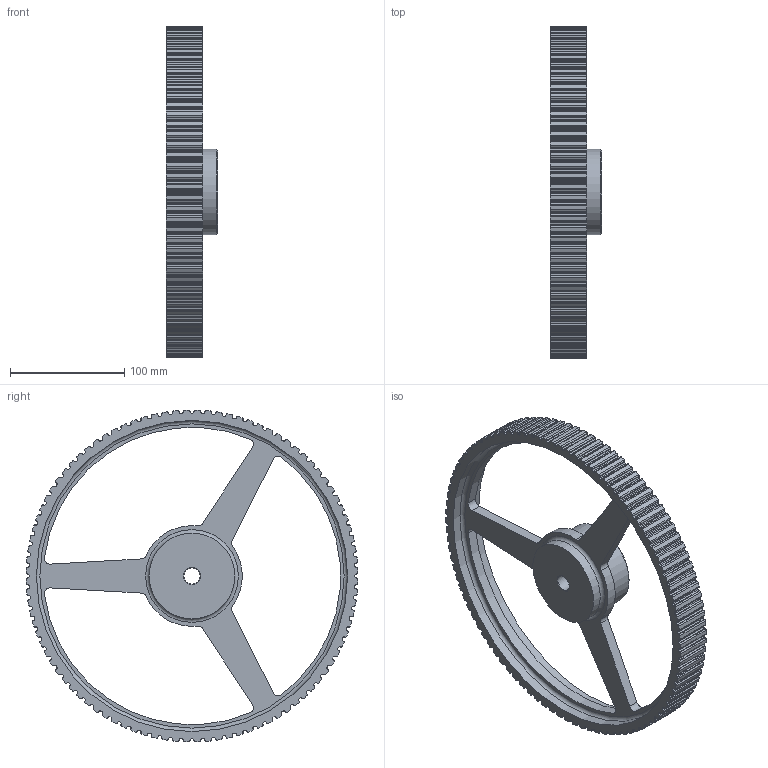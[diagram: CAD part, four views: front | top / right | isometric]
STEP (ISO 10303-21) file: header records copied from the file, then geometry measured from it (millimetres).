
FILE_DESCRIPTION(/* description */ ('PULEGGE 96 L 100'),/* implementation_level */ '2;1');
FILE_NAME(/* name */ 'w:\documenti\Disegni dwg\Catalogo\Pulegge\L\100\stp\42100096.stp',/* time_stamp */ '2023-05-22T11:09:26+02:00',/* author */ ('carlo.bersi'),/* organization */ (''),/* preprocessor_version */ 'ST-DEVELOPER v19',/* originating_system */ 'Autodesk Inventor 2023',/* authorisation */ '');
FILE_SCHEMA (('CONFIG_CONTROL_DESIGN'));
Length unit declared in the file: millimetre
Products named in the file (1): 42100096
Bounding box: 45 x 290.24 x 290.24 mm (x, y, z)
Volume: 543609.3 mm3; surface area: 127868 mm2
Topology: 1 solids, 1 shells, 810 faces, 2409 edges, 1605 vertices
Faces by surface type: cylinder 503, plane 300, torus 4, cone 3
Full cylindrical faces by diameter (mm): 14 x1, 75 x2, 272 x2
Entity records: 27649 total; most frequent: DIRECTION 5052, CARTESIAN_POINT 4825, ORIENTED_EDGE 4818, EDGE_CURVE 2409, AXIS2_PLACEMENT_3D 1832, VERTEX_POINT 1605, LINE 1388, VECTOR 1388
